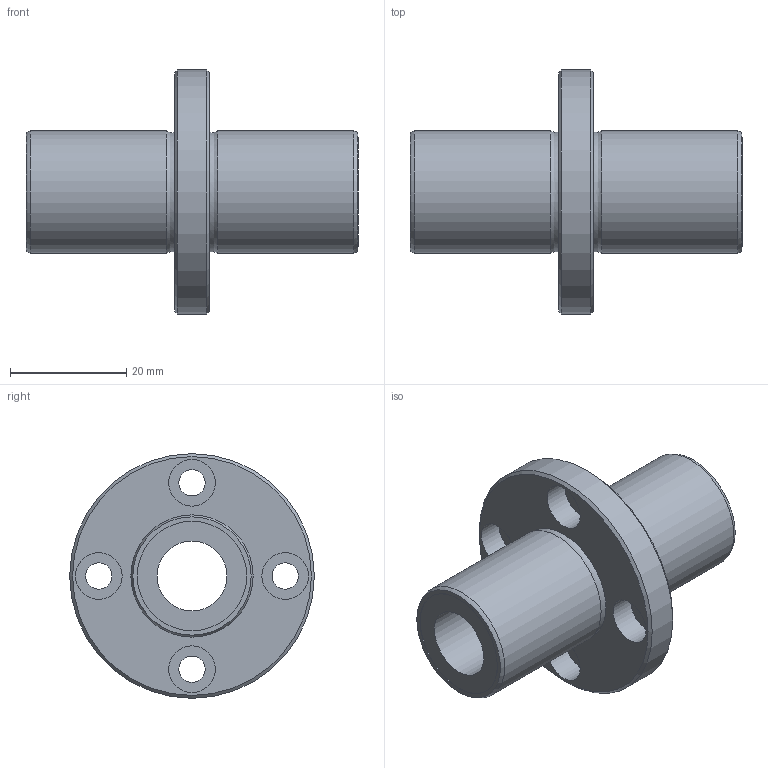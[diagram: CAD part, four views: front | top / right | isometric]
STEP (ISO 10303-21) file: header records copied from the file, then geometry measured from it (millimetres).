
FILE_DESCRIPTION((''),'2;1');
FILE_NAME('D:\製品 (図面)\カタログ用3D\リニアベアリング関連\STEP形式\LFDC\LFDC12.stp','2010-06-03T09:26:59',('Tsuchiya'),(''),'Autodesk Inventor 10','Autodesk Inventor 10','');
FILE_SCHEMA(('AUTOMOTIVE_DESIGN { 1 0 10303 214 1 1 1 1 }'));
Length unit declared in the file: millimetre
Products named in the file (1): LFDC12
Bounding box: 57 x 42 x 42 mm (x, y, z)
Volume: 18436.1 mm3; surface area: 9175.2 mm2
Topology: 1 solids, 1 shells, 30 faces, 54 edges, 34 vertices
Faces by surface type: cylinder 14, plane 10, cone 2, torus 2, bspline 2
Full cylindrical faces by diameter (mm): 4.5 x4, 8 x4, 12 x1, 18.8 x2, 21 x2, 42 x1
Entity records: 803 total; most frequent: CARTESIAN_POINT 223, DIRECTION 126, ORIENTED_EDGE 68, EDGE_LOOP 68, AXIS2_PLACEMENT_3D 63, FACE_BOUND 38, VERTEX_POINT 34, CIRCLE 34
